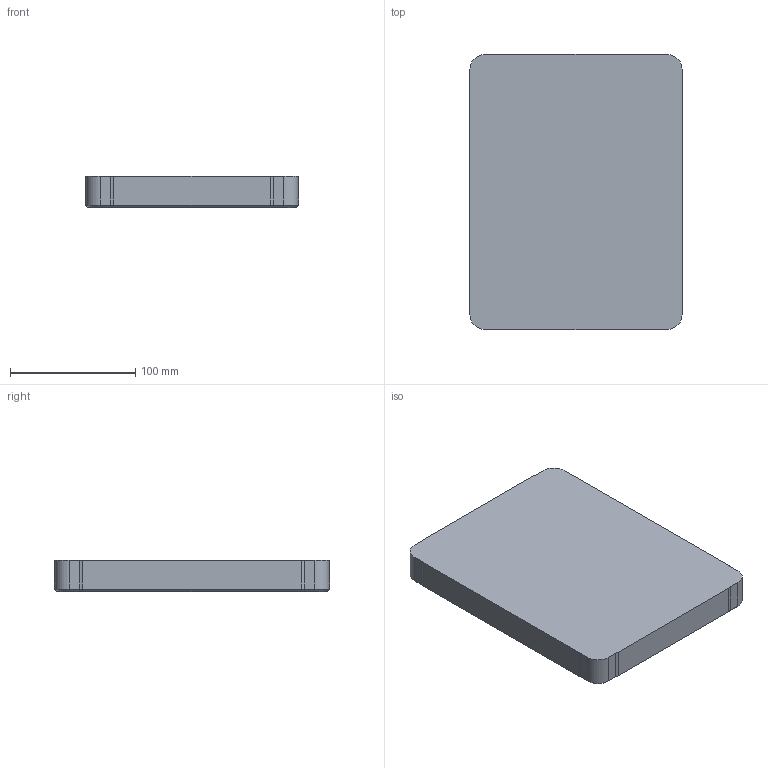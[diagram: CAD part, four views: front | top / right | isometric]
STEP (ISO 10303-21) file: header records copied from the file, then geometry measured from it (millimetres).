
FILE_DESCRIPTION (( 'STEP AP214' ), '1' );
FILE_NAME ('AS-Formeinsatz 170_220_25.STEP', '2024-02-26T13:41:38', ( '' ), ( '' ), 'SwSTEP 2.0', 'SolidWorks 2020', '' );
FILE_SCHEMA (( 'AUTOMOTIVE_DESIGN' ));
Length unit declared in the file: millimetre
Products named in the file (1): AS-Formeinsatz 170_220_25
Bounding box: 170 x 220 x 25 mm (x, y, z)
Volume: 923757.5 mm3; surface area: 94746.8 mm2
Topology: 1 solids, 1 shells, 62 faces, 148 edges, 88 vertices
Faces by surface type: plane 26, cone 20, cylinder 16
Full cylindrical faces by diameter (mm): 8.5 x4
Entity records: 1710 total; most frequent: CARTESIAN_POINT 303, DIRECTION 298, ORIENTED_EDGE 264, EDGE_CURVE 132, AXIS2_PLACEMENT_3D 111, VERTEX_POINT 84, VECTOR 76, LINE 76
